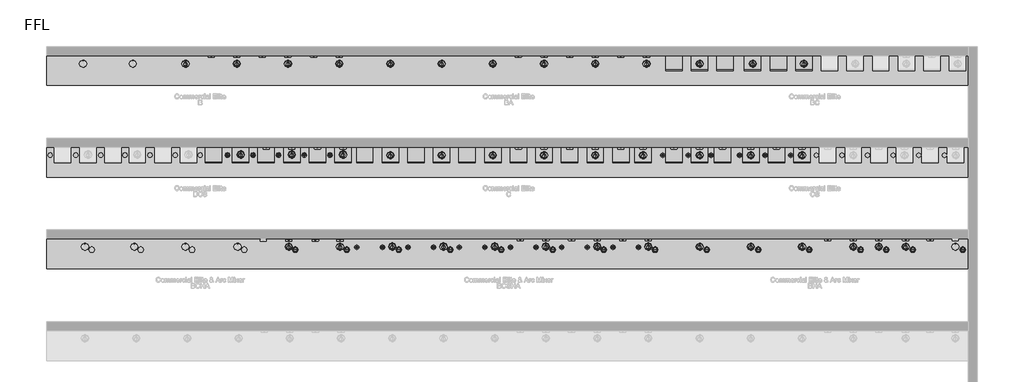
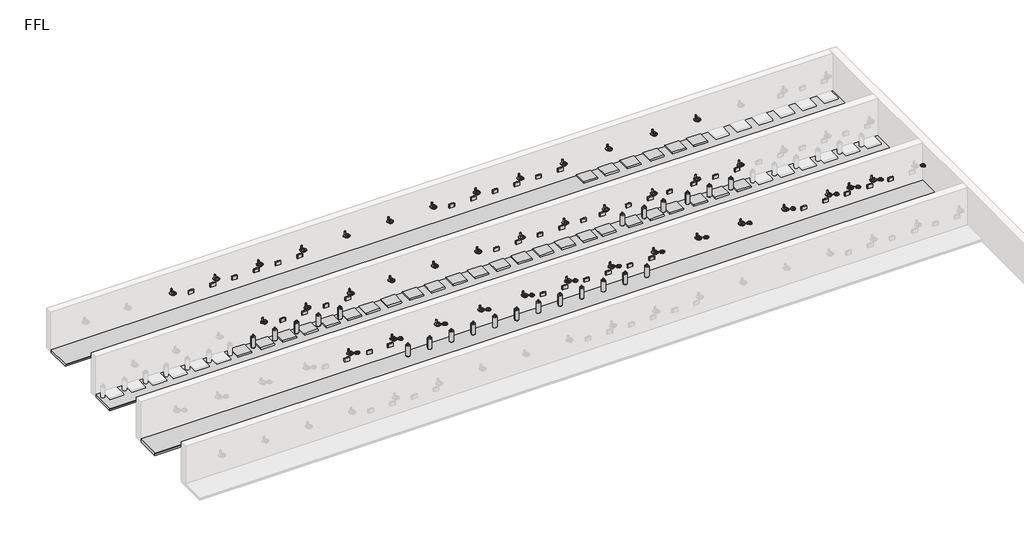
# One storey, part 2 of 13: 149 flow terminals, 3 furniture elements.
"""IFC4 building model written with IfcOpenShell, lengths in millimetres."""

from ifc_helpers import new_model, si_unit, origin, place, context, project, spatial, transform, mapped, element, save
from components import flow_terminal_1fd3c137, bcs_and_bc_6de74493, bright_chrome_07e2d693, brushed_chrome_743c02cf, co2_gas_cylinder_20234e14, generic_plinth_900mm_f1ea148c

model = new_model("IFC4")

# Units and contexts
model_context = context("Model", 3, world=origin())
ifc_project = project(units=[si_unit("LENGTHUNIT", "METRE", prefix="MILLI")], contexts=[model_context])

# Site, building, storey
site = spatial("IfcSite", under=ifc_project)
building = spatial("IfcBuilding", under=site)
storey = spatial("IfcBuildingStorey", under=building, Name="FFL", Elevation=0.0)

# Flow terminals
placement = place(None, origin())
flow_terminal_shape = flow_terminal_1fd3c137(model_context)
element("IfcFlowTerminal", 1, ObjectType="z_PlumFixt_Zenith_Booster : Booster", at=placement, inside=storey, context=model_context, shape_type="MappedRepresentation", body=[
    mapped(flow_terminal_shape, transform((-2017.3186262, 7900.2393304, 498.0), x_axis=(1.0, 0.0, 0.0), y_axis=(0.0, 1.0, 0.0), z_axis=(0.0, 0.0, 1.0))),
])
element("IfcFlowTerminal", 2, ObjectType="z_PlumFixt_Zenith_Booster : Booster", at=placement, inside=storey, context=model_context, shape_type="MappedRepresentation", body=[
    mapped(flow_terminal_shape, transform((-1246.4852929, 7900.2393304, 498.0), x_axis=(1.0, 0.0, 0.0), y_axis=(0.0, 1.0, 0.0), z_axis=(0.0, 0.0, 1.0))),
])
element("IfcFlowTerminal", 3, ObjectType="z_PlumFixt_Zenith_Booster : Booster", at=placement, inside=storey, context=model_context, shape_type="MappedRepresentation", body=[
    mapped(flow_terminal_shape, transform((-475.6519595, 7900.2393304, 498.0), x_axis=(1.0, 0.0, 0.0), y_axis=(0.0, 1.0, 0.0), z_axis=(0.0, 0.0, 1.0))),
])
element("IfcFlowTerminal", 4, ObjectType="z_PlumFixt_Zenith_Booster : Booster", at=placement, inside=storey, context=model_context, shape_type="MappedRepresentation", body=[
    mapped(flow_terminal_shape, transform((295.1813738, 7900.2393304, 498.0), x_axis=(1.0, 0.0, 0.0), y_axis=(0.0, 1.0, 0.0), z_axis=(0.0, 0.0, 1.0))),
])
element("IfcFlowTerminal", 5, ObjectType="z_PlumFixt_Zenith_Booster : Booster", at=placement, inside=storey, context=model_context, shape_type="MappedRepresentation", body=[
    mapped(flow_terminal_shape, transform((1066.0147071, 7900.2393304, 498.0), x_axis=(1.0, 0.0, 0.0), y_axis=(0.0, 1.0, 0.0), z_axis=(0.0, 0.0, 1.0))),
])
element("IfcFlowTerminal", 6, ObjectType="z_PlumFixt_Zenith_Booster : Booster", at=placement, inside=storey, context=model_context, shape_type="MappedRepresentation", body=[
    mapped(flow_terminal_shape, transform((1836.8480405, 7900.2393304, 498.0), x_axis=(1.0, 0.0, 0.0), y_axis=(0.0, 1.0, 0.0), z_axis=(0.0, 0.0, 1.0))),
])
element("IfcFlowTerminal", 7, ObjectType="z_PlumFixt_Zenith_Booster : Booster", at=placement, inside=storey, context=model_context, shape_type="MappedRepresentation", body=[
    mapped(flow_terminal_shape, transform((1123.0147071, 2365.3893304, 498.0), x_axis=(1.0, 0.0, 0.0), y_axis=(0.0, 1.0, 0.0), z_axis=(0.0, 0.0, 1.0))),
])
element("IfcFlowTerminal", 8, ObjectType="z_PlumFixt_Zenith_Booster : Booster", at=placement, inside=storey, context=model_context, shape_type="MappedRepresentation", body=[
    mapped(flow_terminal_shape, transform((11143.8480405, 2381.1893304, 498.0), x_axis=(1.0, 0.0, 0.0), y_axis=(0.0, 1.0, 0.0), z_axis=(0.0, 0.0, 1.0))),
])
element("IfcFlowTerminal", 9, ObjectType="z_PlumFixt_Zenith_Booster : Booster", at=placement, inside=storey, context=model_context, shape_type="MappedRepresentation", body=[
    mapped(flow_terminal_shape, transform((10373.0147071, 2381.1893304, 498.0), x_axis=(1.0, 0.0, 0.0), y_axis=(0.0, 1.0, 0.0), z_axis=(0.0, 0.0, 1.0))),
])
element("IfcFlowTerminal", 10, ObjectType="z_PlumFixt_Zenith_Booster : Booster", at=placement, inside=storey, context=model_context, shape_type="MappedRepresentation", body=[
    mapped(flow_terminal_shape, transform((7289.6813738, 2381.1893304, 498.0), x_axis=(1.0, 0.0, 0.0), y_axis=(0.0, 1.0, 0.0), z_axis=(0.0, 0.0, 1.0))),
])
element("IfcFlowTerminal", 11, ObjectType="z_PlumFixt_Zenith_Booster : Booster", at=placement, inside=storey, context=model_context, shape_type="MappedRepresentation", body=[
    mapped(flow_terminal_shape, transform((16539.6813738, 2381.1893304, 498.0), x_axis=(1.0, 0.0, 0.0), y_axis=(0.0, 1.0, 0.0), z_axis=(0.0, 0.0, 1.0))),
])
element("IfcFlowTerminal", 12, ObjectType="z_PlumFixt_Zenith_Booster : Booster", at=placement, inside=storey, context=model_context, shape_type="MappedRepresentation", body=[
    mapped(flow_terminal_shape, transform((19623.0147071, 2381.1893304, 498.0), x_axis=(1.0, 0.0, 0.0), y_axis=(0.0, 1.0, 0.0), z_axis=(0.0, 0.0, 1.0))),
])
element("IfcFlowTerminal", 13, ObjectType="z_PlumFixt_Zenith_Booster : Booster", at=placement, inside=storey, context=model_context, shape_type="MappedRepresentation", body=[
    mapped(flow_terminal_shape, transform((15768.8480405, 5140.2393304, 538.0), x_axis=(1.0, 0.0, 0.0), y_axis=(0.0, 1.0, 0.0), z_axis=(0.0, 0.0, 1.0))),
])
element("IfcFlowTerminal", 14, ObjectType="z_PlumFixt_Zenith_Booster : Booster", at=placement, inside=storey, context=model_context, shape_type="MappedRepresentation", body=[
    mapped(flow_terminal_shape, transform((14998.0147071, 5140.2393304, 538.0), x_axis=(1.0, 0.0, 0.0), y_axis=(0.0, 1.0, 0.0), z_axis=(0.0, 0.0, 1.0))),
])
element("IfcFlowTerminal", 15, ObjectType="z_PlumFixt_Zenith_Booster : Booster", at=placement, inside=storey, context=model_context, shape_type="MappedRepresentation", body=[
    mapped(flow_terminal_shape, transform((14227.1813738, 5140.2393304, 538.0), x_axis=(1.0, 0.0, 0.0), y_axis=(0.0, 1.0, 0.0), z_axis=(0.0, 0.0, 1.0))),
])
element("IfcFlowTerminal", 16, ObjectType="z_PlumFixt_Zenith_Booster : Booster", at=placement, inside=storey, context=model_context, shape_type="MappedRepresentation", body=[
    mapped(flow_terminal_shape, transform((13373.2647071, 5140.2393304, 538.0), x_axis=(1.0, 0.0, 0.0), y_axis=(0.0, 1.0, 0.0), z_axis=(0.0, 0.0, 1.0))),
])
element("IfcFlowTerminal", 17, ObjectType="z_PlumFixt_Zenith_Booster : Booster", at=placement, inside=storey, context=model_context, shape_type="MappedRepresentation", body=[
    mapped(flow_terminal_shape, transform((12685.5147071, 5140.2393304, 538.0), x_axis=(1.0, 0.0, 0.0), y_axis=(0.0, 1.0, 0.0), z_axis=(0.0, 0.0, 1.0))),
])
element("IfcFlowTerminal", 18, ObjectType="z_PlumFixt_Zenith_Booster : Booster", at=placement, inside=storey, context=model_context, shape_type="MappedRepresentation", body=[
    mapped(flow_terminal_shape, transform((11914.6813738, 5140.2393304, 538.0), x_axis=(1.0, 0.0, 0.0), y_axis=(0.0, 1.0, 0.0), z_axis=(0.0, 0.0, 1.0))),
])
element("IfcFlowTerminal", 19, ObjectType="z_PlumFixt_Zenith_Booster : Booster", at=placement, inside=storey, context=model_context, shape_type="MappedRepresentation", body=[
    mapped(flow_terminal_shape, transform((10983.2647071, 5140.2393304, 538.0), x_axis=(1.0, 0.0, 0.0), y_axis=(0.0, 1.0, 0.0), z_axis=(0.0, 0.0, 1.0))),
])
element("IfcFlowTerminal", 20, ObjectType="z_PlumFixt_Zenith_Booster : Booster", at=placement, inside=storey, context=model_context, shape_type="MappedRepresentation", body=[
    mapped(flow_terminal_shape, transform((10316.0147071, 5140.2393304, 538.0), x_axis=(1.0, 0.0, 0.0), y_axis=(0.0, 1.0, 0.0), z_axis=(0.0, 0.0, 1.0))),
])
element("IfcFlowTerminal", 21, ObjectType="z_PlumFixt_Zenith_Booster : Booster", at=placement, inside=storey, context=model_context, shape_type="MappedRepresentation", body=[
    mapped(flow_terminal_shape, transform((9545.1813738, 5140.2393304, 538.0), x_axis=(1.0, 0.0, 0.0), y_axis=(0.0, 1.0, 0.0), z_axis=(0.0, 0.0, 1.0))),
])
element("IfcFlowTerminal", 22, ObjectType="z_PlumFixt_Zenith_Booster : Booster", at=placement, inside=storey, context=model_context, shape_type="MappedRepresentation", body=[
    mapped(flow_terminal_shape, transform((8774.3480405, 5140.2393304, 538.0), x_axis=(1.0, 0.0, 0.0), y_axis=(0.0, 1.0, 0.0), z_axis=(0.0, 0.0, 1.0))),
])
element("IfcFlowTerminal", 23, ObjectType="z_PlumFixt_Zenith_Booster : Booster", at=placement, inside=storey, context=model_context, shape_type="MappedRepresentation", body=[
    mapped(flow_terminal_shape, transform((8003.5147071, 5140.2393304, 538.0), x_axis=(1.0, 0.0, 0.0), y_axis=(0.0, 1.0, 0.0), z_axis=(0.0, 0.0, 1.0))),
])
element("IfcFlowTerminal", 24, ObjectType="z_PlumFixt_Zenith_Booster : Booster", at=placement, inside=storey, context=model_context, shape_type="MappedRepresentation", body=[
    mapped(flow_terminal_shape, transform((7232.6813738, 5140.2393304, 538.0), x_axis=(1.0, 0.0, 0.0), y_axis=(0.0, 1.0, 0.0), z_axis=(0.0, 0.0, 1.0))),
])
element("IfcFlowTerminal", 25, ObjectType="z_PlumFixt_Zenith_Booster : Booster", at=placement, inside=storey, context=model_context, shape_type="MappedRepresentation", body=[
    mapped(flow_terminal_shape, transform((-358.6519595, 5140.2393304, 538.0), x_axis=(1.0, 0.0, 0.0), y_axis=(0.0, 1.0, 0.0), z_axis=(0.0, 0.0, 1.0))),
])
element("IfcFlowTerminal", 26, ObjectType="z_PlumFixt_Zenith_Booster : Booster", at=placement, inside=storey, context=model_context, shape_type="MappedRepresentation", body=[
    mapped(flow_terminal_shape, transform((412.1813738, 5140.2393304, 538.0), x_axis=(1.0, 0.0, 0.0), y_axis=(0.0, 1.0, 0.0), z_axis=(0.0, 0.0, 1.0))),
])
element("IfcFlowTerminal", 27, ObjectType="z_PlumFixt_Zenith_Booster : Booster", at=placement, inside=storey, context=model_context, shape_type="MappedRepresentation", body=[
    mapped(flow_terminal_shape, transform((1183.0147071, 5140.2393304, 538.0), x_axis=(1.0, 0.0, 0.0), y_axis=(0.0, 1.0, 0.0), z_axis=(0.0, 0.0, 1.0))),
])
element("IfcFlowTerminal", 28, ObjectType="z_PlumFixt_Zenith_Booster : Booster", at=placement, inside=storey, context=model_context, shape_type="MappedRepresentation", body=[
    mapped(flow_terminal_shape, transform((1953.8480405, 5140.2393304, 538.0), x_axis=(1.0, 0.0, 0.0), y_axis=(0.0, 1.0, 0.0), z_axis=(0.0, 0.0, 1.0))),
])
element("IfcFlowTerminal", 29, ObjectType="z_PlumFixt_Zenith_Booster : Booster", at=placement, inside=storey, context=model_context, shape_type="MappedRepresentation", body=[
    mapped(flow_terminal_shape, transform((7232.6813738, 7900.2393304, 498.0), x_axis=(1.0, 0.0, 0.0), y_axis=(0.0, 1.0, 0.0), z_axis=(0.0, 0.0, 1.0))),
])
element("IfcFlowTerminal", 30, ObjectType="z_PlumFixt_Zenith_Booster : Booster", at=placement, inside=storey, context=model_context, shape_type="MappedRepresentation", body=[
    mapped(flow_terminal_shape, transform((8003.5147071, 7900.2393304, 498.0), x_axis=(1.0, 0.0, 0.0), y_axis=(0.0, 1.0, 0.0), z_axis=(0.0, 0.0, 1.0))),
])
element("IfcFlowTerminal", 31, ObjectType="z_PlumFixt_Zenith_Booster : Booster", at=placement, inside=storey, context=model_context, shape_type="MappedRepresentation", body=[
    mapped(flow_terminal_shape, transform((8774.3480405, 7900.2393304, 498.0), x_axis=(1.0, 0.0, 0.0), y_axis=(0.0, 1.0, 0.0), z_axis=(0.0, 0.0, 1.0))),
])
element("IfcFlowTerminal", 32, ObjectType="z_PlumFixt_Zenith_Booster : Booster", at=placement, inside=storey, context=model_context, shape_type="MappedRepresentation", body=[
    mapped(flow_terminal_shape, transform((9545.1813738, 7900.2393304, 498.0), x_axis=(1.0, 0.0, 0.0), y_axis=(0.0, 1.0, 0.0), z_axis=(0.0, 0.0, 1.0))),
])
element("IfcFlowTerminal", 33, ObjectType="z_PlumFixt_Zenith_Booster : Booster", at=placement, inside=storey, context=model_context, shape_type="MappedRepresentation", body=[
    mapped(flow_terminal_shape, transform((10316.0147071, 7900.2393304, 498.0), x_axis=(1.0, 0.0, 0.0), y_axis=(0.0, 1.0, 0.0), z_axis=(0.0, 0.0, 1.0))),
])
element("IfcFlowTerminal", 34, ObjectType="z_PlumFixt_Zenith_Booster : Booster", at=placement, inside=storey, context=model_context, shape_type="MappedRepresentation", body=[
    mapped(flow_terminal_shape, transform((11086.8480405, 7900.2393304, 498.0), x_axis=(1.0, 0.0, 0.0), y_axis=(0.0, 1.0, 0.0), z_axis=(0.0, 0.0, 1.0))),
])
element("IfcFlowTerminal", 35, ObjectType="z_PlumFixt_Zenith_Booster : Booster", at=placement, inside=storey, context=model_context, shape_type="MappedRepresentation", body=[
    mapped(flow_terminal_shape, transform((18885.5147071, 2381.1893304, 498.0), x_axis=(1.0, 0.0, 0.0), y_axis=(0.0, 1.0, 0.0), z_axis=(0.0, 0.0, 1.0))),
])
element("IfcFlowTerminal", 36, ObjectType="z_PlumFixt_Zenith_Booster : Booster", at=placement, inside=storey, context=model_context, shape_type="MappedRepresentation", body=[
    mapped(flow_terminal_shape, transform((18081.3480405, 2381.1893304, 498.0), x_axis=(1.0, 0.0, 0.0), y_axis=(0.0, 1.0, 0.0), z_axis=(0.0, 0.0, 1.0))),
])
element("IfcFlowTerminal", 37, ObjectType="z_PlumFixt_Zenith_Booster : Booster", at=placement, inside=storey, context=model_context, shape_type="MappedRepresentation", body=[
    mapped(flow_terminal_shape, transform((17310.5147071, 2381.1893304, 498.0), x_axis=(1.0, 0.0, 0.0), y_axis=(0.0, 1.0, 0.0), z_axis=(0.0, 0.0, 1.0))),
])
element("IfcFlowTerminal", 38, ObjectType="z_PlumFixt_Zenith_Booster : Booster", at=placement, inside=storey, context=model_context, shape_type="MappedRepresentation", body=[
    mapped(flow_terminal_shape, transform((1861.8480405, 2365.3893304, 498.0), x_axis=(1.0, 0.0, 0.0), y_axis=(0.0, 1.0, 0.0), z_axis=(0.0, 0.0, 1.0))),
])
element("IfcFlowTerminal", 39, ObjectType="z_PlumFixt_Zenith_Booster : Booster", at=placement, inside=storey, context=model_context, shape_type="MappedRepresentation", body=[
    mapped(flow_terminal_shape, transform((320.1813738, 2365.3893304, 498.0), x_axis=(1.0, 0.0, 0.0), y_axis=(0.0, 1.0, 0.0), z_axis=(0.0, 0.0, 1.0))),
])
element("IfcFlowTerminal", 40, ObjectType="z_PlumFixt_Zenith_Booster : Booster", at=placement, inside=storey, context=model_context, shape_type="MappedRepresentation", body=[
    mapped(flow_terminal_shape, transform((8060.5147071, 2381.1893304, 498.0), x_axis=(1.0, 0.0, 0.0), y_axis=(0.0, 1.0, 0.0), z_axis=(0.0, 0.0, 1.0))),
])
element("IfcFlowTerminal", 41, ObjectType="z_PlumFixt_Zenith_Booster : Booster", at=placement, inside=storey, context=model_context, shape_type="MappedRepresentation", body=[
    mapped(flow_terminal_shape, transform((8831.3480405, 2381.1893304, 498.0), x_axis=(1.0, 0.0, 0.0), y_axis=(0.0, 1.0, 0.0), z_axis=(0.0, 0.0, 1.0))),
])
element("IfcFlowTerminal", 42, ObjectType="z_PlumFixt_Zenith_Booster : Booster", at=placement, inside=storey, context=model_context, shape_type="MappedRepresentation", body=[
    mapped(flow_terminal_shape, transform((9602.1813738, 2381.1893304, 498.0), x_axis=(1.0, 0.0, 0.0), y_axis=(0.0, 1.0, 0.0), z_axis=(0.0, 0.0, 1.0))),
])
bcs_and_bc_shape = bcs_and_bc_6de74493(model_context)
element("IfcFlowTerminal", 43, ObjectType="z_PlumFixt_Zenith_Vent Tray : BCS and BC", at=placement, inside=storey, context=model_context, shape_type="MappedRepresentation", body=[
    mapped(bcs_and_bc_shape, transform((11914.6813738, 7720.7393304, 100.0), x_axis=(1.0, 0.0, 0.0), y_axis=(0.0, 1.0, 0.0), z_axis=(0.0, 0.0, 1.0))),
])
element("IfcFlowTerminal", 44, ObjectType="z_PlumFixt_Zenith_Vent Tray : BCS and BC", at=placement, inside=storey, context=model_context, shape_type="MappedRepresentation", body=[
    mapped(bcs_and_bc_shape, transform((12685.5147071, 7720.7393304, 100.0), x_axis=(1.0, 0.0, 0.0), y_axis=(0.0, 1.0, 0.0), z_axis=(0.0, 0.0, 1.0))),
])
element("IfcFlowTerminal", 45, ObjectType="z_PlumFixt_Zenith_Vent Tray : BCS and BC", at=placement, inside=storey, context=model_context, shape_type="MappedRepresentation", body=[
    mapped(bcs_and_bc_shape, transform((13456.3480405, 7720.7393304, 100.0), x_axis=(1.0, 0.0, 0.0), y_axis=(0.0, 1.0, 0.0), z_axis=(0.0, 0.0, 1.0))),
])
element("IfcFlowTerminal", 46, ObjectType="z_PlumFixt_Zenith_Vent Tray : BCS and BC", at=placement, inside=storey, context=model_context, shape_type="MappedRepresentation", body=[
    mapped(bcs_and_bc_shape, transform((14284.1813738, 7720.7393304, 100.0), x_axis=(1.0, 0.0, 0.0), y_axis=(0.0, 1.0, 0.0), z_axis=(0.0, 0.0, 1.0))),
])
element("IfcFlowTerminal", 47, ObjectType="z_PlumFixt_Zenith_Vent Tray : BCS and BC", at=placement, inside=storey, context=model_context, shape_type="MappedRepresentation", body=[
    mapped(bcs_and_bc_shape, transform((15055.0147071, 7720.7393304, 100.0), x_axis=(1.0, 0.0, 0.0), y_axis=(0.0, 1.0, 0.0), z_axis=(0.0, 0.0, 1.0))),
])
element("IfcFlowTerminal", 48, ObjectType="z_PlumFixt_Zenith_Vent Tray : BCS and BC", at=placement, inside=storey, context=model_context, shape_type="MappedRepresentation", body=[
    mapped(bcs_and_bc_shape, transform((15825.8480405, 7720.7393304, 100.0), x_axis=(1.0, 0.0, 0.0), y_axis=(0.0, 1.0, 0.0), z_axis=(0.0, 0.0, 1.0))),
])
bright_chrome_shape = bright_chrome_07e2d693(model_context)
element("IfcFlowTerminal", 49, ObjectType="z_PlumFixt_Zenith_Font and Tap Riser : Bright Chrome", at=placement, inside=storey, context=model_context, shape_type="MappedRepresentation", body=[
    mapped(bright_chrome_shape, transform((15768.8480405, 4828.9893304, 900.0), x_axis=(1.0, 0.0, 0.0), y_axis=(0.0, 1.0, 0.0), z_axis=(0.0, 0.0, 1.0))),
])
element("IfcFlowTerminal", 50, ObjectType="z_PlumFixt_Zenith_Font and Tap Riser : Bright Chrome", at=placement, inside=storey, context=model_context, shape_type="MappedRepresentation", body=[
    mapped(bright_chrome_shape, transform((14227.1813738, 4828.9893304, 900.0), x_axis=(1.0, 0.0, 0.0), y_axis=(0.0, 1.0, 0.0), z_axis=(0.0, 0.0, 1.0))),
])
element("IfcFlowTerminal", 51, ObjectType="z_PlumFixt_Zenith_Font and Tap Riser : Bright Chrome", at=placement, inside=storey, context=model_context, shape_type="MappedRepresentation", body=[
    mapped(bright_chrome_shape, transform((18081.3480405, 2078.9393304, 900.0), x_axis=(1.0, 0.0, 0.0), y_axis=(0.0, 1.0, 0.0), z_axis=(0.0, 0.0, 1.0))),
])
element("IfcFlowTerminal", 52, ObjectType="z_PlumFixt_Zenith_Font and Tap Riser : Bright Chrome", at=placement, inside=storey, context=model_context, shape_type="MappedRepresentation", body=[
    mapped(bright_chrome_shape, transform((12685.5147071, 4828.9893304, 900.0), x_axis=(1.0, 0.0, 0.0), y_axis=(0.0, 1.0, 0.0), z_axis=(0.0, 0.0, 1.0))),
])
element("IfcFlowTerminal", 53, ObjectType="z_PlumFixt_Zenith_Font and Tap Riser : Bright Chrome", at=placement, inside=storey, context=model_context, shape_type="MappedRepresentation", body=[
    mapped(bright_chrome_shape, transform((1836.8480405, 7588.9893304, 900.0), x_axis=(1.0, 0.0, 0.0), y_axis=(0.0, 1.0, 0.0), z_axis=(0.0, 0.0, 1.0))),
])
element("IfcFlowTerminal", 54, ObjectType="z_PlumFixt_Zenith_Font and Tap Riser : Bright Chrome", at=placement, inside=storey, context=model_context, shape_type="MappedRepresentation", body=[
    mapped(bright_chrome_shape, transform((10983.2647071, 4828.9893304, 900.0), x_axis=(1.0, 0.0, 0.0), y_axis=(0.0, 1.0, 0.0), z_axis=(0.0, 0.0, 1.0))),
])
element("IfcFlowTerminal", 55, ObjectType="z_PlumFixt_Zenith_Font and Tap Riser : Bright Chrome", at=placement, inside=storey, context=model_context, shape_type="MappedRepresentation", body=[
    mapped(bright_chrome_shape, transform((1953.8480405, 4852.9893304, 900.0), x_axis=(1.0, 0.0, 0.0), y_axis=(0.0, 1.0, 0.0), z_axis=(0.0, 0.0, 1.0))),
])
element("IfcFlowTerminal", 56, ObjectType="z_PlumFixt_Zenith_Font and Tap Riser : Bright Chrome", at=placement, inside=storey, context=model_context, shape_type="MappedRepresentation", body=[
    mapped(bright_chrome_shape, transform((11086.8480405, 7588.9893304, 900.0), x_axis=(1.0, 0.0, 0.0), y_axis=(0.0, 1.0, 0.0), z_axis=(0.0, 0.0, 1.0))),
])
element("IfcFlowTerminal", 57, ObjectType="z_PlumFixt_Zenith_Font and Tap Riser : Bright Chrome", at=placement, inside=storey, context=model_context, shape_type="MappedRepresentation", body=[
    mapped(bright_chrome_shape, transform((11143.8480405, 2082.9393304, 900.0), x_axis=(1.0, 0.0, 0.0), y_axis=(0.0, 1.0, 0.0), z_axis=(0.0, 0.0, 1.0))),
])
element("IfcFlowTerminal", 58, ObjectType="z_PlumFixt_Zenith_Font and Tap Riser : Bright Chrome", at=placement, inside=storey, context=model_context, shape_type="MappedRepresentation", body=[
    mapped(bright_chrome_shape, transform((1861.8480405, 2078.9393304, 900.0), x_axis=(1.0, 0.0, 0.0), y_axis=(0.0, 1.0, 0.0), z_axis=(0.0, 0.0, 1.0))),
])
element("IfcFlowTerminal", 59, ObjectType="z_PlumFixt_Zenith_Font and Tap Riser : Bright Chrome", at=placement, inside=storey, context=model_context, shape_type="MappedRepresentation", body=[
    mapped(bright_chrome_shape, transform((295.1813738, 7588.9893304, 900.0), x_axis=(1.0, 0.0, 0.0), y_axis=(0.0, 1.0, 0.0), z_axis=(0.0, 0.0, 1.0))),
])
element("IfcFlowTerminal", 60, ObjectType="z_PlumFixt_Zenith_Font and Tap Riser : Bright Chrome", at=placement, inside=storey, context=model_context, shape_type="MappedRepresentation", body=[
    mapped(bright_chrome_shape, transform((9545.1813738, 4828.9893304, 900.0), x_axis=(1.0, 0.0, 0.0), y_axis=(0.0, 1.0, 0.0), z_axis=(0.0, 0.0, 1.0))),
])
element("IfcFlowTerminal", 61, ObjectType="z_PlumFixt_Zenith_Font and Tap Riser : Bright Chrome", at=placement, inside=storey, context=model_context, shape_type="MappedRepresentation", body=[
    mapped(bright_chrome_shape, transform((412.1813738, 4852.9893304, 900.0), x_axis=(1.0, 0.0, 0.0), y_axis=(0.0, 1.0, 0.0), z_axis=(0.0, 0.0, 1.0))),
])
element("IfcFlowTerminal", 62, ObjectType="z_PlumFixt_Zenith_Font and Tap Riser : Bright Chrome", at=placement, inside=storey, context=model_context, shape_type="MappedRepresentation", body=[
    mapped(bright_chrome_shape, transform((9545.1813738, 7588.9893304, 900.0), x_axis=(1.0, 0.0, 0.0), y_axis=(0.0, 1.0, 0.0), z_axis=(0.0, 0.0, 1.0))),
])
element("IfcFlowTerminal", 63, ObjectType="z_PlumFixt_Zenith_Font and Tap Riser : Bright Chrome", at=placement, inside=storey, context=model_context, shape_type="MappedRepresentation", body=[
    mapped(bright_chrome_shape, transform((18885.5147071, 2078.9393304, 900.0), x_axis=(1.0, 0.0, 0.0), y_axis=(0.0, 1.0, 0.0), z_axis=(0.0, 0.0, 1.0))),
])
element("IfcFlowTerminal", 64, ObjectType="z_PlumFixt_Zenith_Font and Tap Riser : Bright Chrome", at=placement, inside=storey, context=model_context, shape_type="MappedRepresentation", body=[
    mapped(bright_chrome_shape, transform((9602.1813738, 2082.9393304, 900.0), x_axis=(1.0, 0.0, 0.0), y_axis=(0.0, 1.0, 0.0), z_axis=(0.0, 0.0, 1.0))),
])
element("IfcFlowTerminal", 65, ObjectType="z_PlumFixt_Zenith_Font and Tap Riser : Bright Chrome", at=placement, inside=storey, context=model_context, shape_type="MappedRepresentation", body=[
    mapped(bright_chrome_shape, transform((320.1813738, 2078.9393304, 900.0), x_axis=(1.0, 0.0, 0.0), y_axis=(0.0, 1.0, 0.0), z_axis=(0.0, 0.0, 1.0))),
])
element("IfcFlowTerminal", 66, ObjectType="z_PlumFixt_Zenith_Font and Tap Riser : Bright Chrome", at=placement, inside=storey, context=model_context, shape_type="MappedRepresentation", body=[
    mapped(bright_chrome_shape, transform((-1246.4852929, 7588.9893304, 900.0), x_axis=(1.0, 0.0, 0.0), y_axis=(0.0, 1.0, 0.0), z_axis=(0.0, 0.0, 1.0))),
])
element("IfcFlowTerminal", 67, ObjectType="z_PlumFixt_Zenith_Font and Tap Riser : Bright Chrome", at=placement, inside=storey, context=model_context, shape_type="MappedRepresentation", body=[
    mapped(bright_chrome_shape, transform((8003.5147071, 4828.9893304, 900.0), x_axis=(1.0, 0.0, 0.0), y_axis=(0.0, 1.0, 0.0), z_axis=(0.0, 0.0, 1.0))),
])
element("IfcFlowTerminal", 68, ObjectType="z_PlumFixt_Zenith_Font and Tap Riser : Bright Chrome", at=placement, inside=storey, context=model_context, shape_type="MappedRepresentation", body=[
    mapped(bright_chrome_shape, transform((-1129.4852929, 4852.9893304, 900.0), x_axis=(1.0, 0.0, 0.0), y_axis=(0.0, 1.0, 0.0), z_axis=(0.0, 0.0, 1.0))),
])
element("IfcFlowTerminal", 69, ObjectType="z_PlumFixt_Zenith_Font and Tap Riser : Bright Chrome", at=placement, inside=storey, context=model_context, shape_type="MappedRepresentation", body=[
    mapped(bright_chrome_shape, transform((8003.5147071, 7588.9893304, 900.0), x_axis=(1.0, 0.0, 0.0), y_axis=(0.0, 1.0, 0.0), z_axis=(0.0, 0.0, 1.0))),
])
element("IfcFlowTerminal", 70, ObjectType="z_PlumFixt_Zenith_Font and Tap Riser : Bright Chrome", at=placement, inside=storey, context=model_context, shape_type="MappedRepresentation", body=[
    mapped(bright_chrome_shape, transform((17310.5147071, 2078.9393304, 900.0), x_axis=(1.0, 0.0, 0.0), y_axis=(0.0, 1.0, 0.0), z_axis=(0.0, 0.0, 1.0))),
])
element("IfcFlowTerminal", 71, ObjectType="z_PlumFixt_Zenith_Font and Tap Riser : Bright Chrome", at=placement, inside=storey, context=model_context, shape_type="MappedRepresentation", body=[
    mapped(bright_chrome_shape, transform((8060.5147071, 2082.9393304, 900.0), x_axis=(1.0, 0.0, 0.0), y_axis=(0.0, 1.0, 0.0), z_axis=(0.0, 0.0, 1.0))),
])
element("IfcFlowTerminal", 72, ObjectType="z_PlumFixt_Zenith_Font and Tap Riser : Bright Chrome", at=placement, inside=storey, context=model_context, shape_type="MappedRepresentation", body=[
    mapped(bright_chrome_shape, transform((-2788.1519595, 7588.9893304, 900.0), x_axis=(1.0, 0.0, 0.0), y_axis=(0.0, 1.0, 0.0), z_axis=(0.0, 0.0, 1.0))),
])
element("IfcFlowTerminal", 73, ObjectType="z_PlumFixt_Zenith_Font and Tap Riser : Bright Chrome", at=placement, inside=storey, context=model_context, shape_type="MappedRepresentation", body=[
    mapped(bright_chrome_shape, transform((6461.8480405, 4828.9893304, 900.0), x_axis=(1.0, 0.0, 0.0), y_axis=(0.0, 1.0, 0.0), z_axis=(0.0, 0.0, 1.0))),
])
element("IfcFlowTerminal", 74, ObjectType="z_PlumFixt_Zenith_Font and Tap Riser : Bright Chrome", at=placement, inside=storey, context=model_context, shape_type="MappedRepresentation", body=[
    mapped(bright_chrome_shape, transform((6461.8480405, 7588.9893304, 900.0), x_axis=(1.0, 0.0, 0.0), y_axis=(0.0, 1.0, 0.0), z_axis=(0.0, 0.0, 1.0))),
])
element("IfcFlowTerminal", 75, ObjectType="z_PlumFixt_Zenith_Font and Tap Riser : Bright Chrome", at=placement, inside=storey, context=model_context, shape_type="MappedRepresentation", body=[
    mapped(bright_chrome_shape, transform((15825.8480405, 7588.9893304, 900.0), x_axis=(1.0, 0.0, 0.0), y_axis=(0.0, 1.0, 0.0), z_axis=(0.0, 0.0, 1.0))),
])
element("IfcFlowTerminal", 76, ObjectType="z_PlumFixt_Zenith_Font and Tap Riser : Bright Chrome", at=placement, inside=storey, context=model_context, shape_type="MappedRepresentation", body=[
    mapped(bright_chrome_shape, transform((15768.8480405, 2078.9393304, 900.0), x_axis=(1.0, 0.0, 0.0), y_axis=(0.0, 1.0, 0.0), z_axis=(0.0, 0.0, 1.0))),
])
element("IfcFlowTerminal", 77, ObjectType="z_PlumFixt_Zenith_Font and Tap Riser : Bright Chrome", at=placement, inside=storey, context=model_context, shape_type="MappedRepresentation", body=[
    mapped(bright_chrome_shape, transform((6518.8480405, 2082.9393304, 900.0), x_axis=(1.0, 0.0, 0.0), y_axis=(0.0, 1.0, 0.0), z_axis=(0.0, 0.0, 1.0))),
])
element("IfcFlowTerminal", 78, ObjectType="z_PlumFixt_Zenith_Font and Tap Riser : Bright Chrome", at=placement, inside=storey, context=model_context, shape_type="MappedRepresentation", body=[
    mapped(bright_chrome_shape, transform((4920.1813738, 4828.9893304, 900.0), x_axis=(1.0, 0.0, 0.0), y_axis=(0.0, 1.0, 0.0), z_axis=(0.0, 0.0, 1.0))),
])
element("IfcFlowTerminal", 79, ObjectType="z_PlumFixt_Zenith_Font and Tap Riser : Bright Chrome", at=placement, inside=storey, context=model_context, shape_type="MappedRepresentation", body=[
    mapped(bright_chrome_shape, transform((4920.1813738, 7588.9893304, 900.0), x_axis=(1.0, 0.0, 0.0), y_axis=(0.0, 1.0, 0.0), z_axis=(0.0, 0.0, 1.0))),
])
element("IfcFlowTerminal", 80, ObjectType="z_PlumFixt_Zenith_Font and Tap Riser : Bright Chrome", at=placement, inside=storey, context=model_context, shape_type="MappedRepresentation", body=[
    mapped(bright_chrome_shape, transform((14284.1813738, 7588.9893304, 900.0), x_axis=(1.0, 0.0, 0.0), y_axis=(0.0, 1.0, 0.0), z_axis=(0.0, 0.0, 1.0))),
])
element("IfcFlowTerminal", 81, ObjectType="z_PlumFixt_Zenith_Font and Tap Riser : Bright Chrome", at=placement, inside=storey, context=model_context, shape_type="MappedRepresentation", body=[
    mapped(bright_chrome_shape, transform((14227.1813738, 2078.9393304, 900.0), x_axis=(1.0, 0.0, 0.0), y_axis=(0.0, 1.0, 0.0), z_axis=(0.0, 0.0, 1.0))),
])
element("IfcFlowTerminal", 82, ObjectType="z_PlumFixt_Zenith_Font and Tap Riser : Bright Chrome", at=placement, inside=storey, context=model_context, shape_type="MappedRepresentation", body=[
    mapped(bright_chrome_shape, transform((4977.1813738, 2082.9393304, 900.0), x_axis=(1.0, 0.0, 0.0), y_axis=(0.0, 1.0, 0.0), z_axis=(0.0, 0.0, 1.0))),
])
element("IfcFlowTerminal", 83, ObjectType="z_PlumFixt_Zenith_Font and Tap Riser : Bright Chrome", at=placement, inside=storey, context=model_context, shape_type="MappedRepresentation", body=[
    mapped(bright_chrome_shape, transform((12685.5147071, 2078.9393304, 900.0), x_axis=(1.0, 0.0, 0.0), y_axis=(0.0, 1.0, 0.0), z_axis=(0.0, 0.0, 1.0))),
])
element("IfcFlowTerminal", 84, ObjectType="z_PlumFixt_Zenith_Font and Tap Riser : Bright Chrome", at=placement, inside=storey, context=model_context, shape_type="MappedRepresentation", body=[
    mapped(bright_chrome_shape, transform((3378.5147071, 4828.9893304, 900.0), x_axis=(1.0, 0.0, 0.0), y_axis=(0.0, 1.0, 0.0), z_axis=(0.0, 0.0, 1.0))),
])
element("IfcFlowTerminal", 85, ObjectType="z_PlumFixt_Zenith_Font and Tap Riser : Bright Chrome", at=placement, inside=storey, context=model_context, shape_type="MappedRepresentation", body=[
    mapped(bright_chrome_shape, transform((3378.5147071, 7588.9893304, 900.0), x_axis=(1.0, 0.0, 0.0), y_axis=(0.0, 1.0, 0.0), z_axis=(0.0, 0.0, 1.0))),
])
element("IfcFlowTerminal", 86, ObjectType="z_PlumFixt_Zenith_Font and Tap Riser : Bright Chrome", at=placement, inside=storey, context=model_context, shape_type="MappedRepresentation", body=[
    mapped(bright_chrome_shape, transform((12685.5147071, 7588.9893304, 900.0), x_axis=(1.0, 0.0, 0.0), y_axis=(0.0, 1.0, 0.0), z_axis=(0.0, 0.0, 1.0))),
])
element("IfcFlowTerminal", 87, ObjectType="z_PlumFixt_Zenith_Font and Tap Riser : Bright Chrome", at=placement, inside=storey, context=model_context, shape_type="MappedRepresentation", body=[
    mapped(bright_chrome_shape, transform((3435.5147071, 2082.9393304, 900.0), x_axis=(1.0, 0.0, 0.0), y_axis=(0.0, 1.0, 0.0), z_axis=(0.0, 0.0, 1.0))),
])
brushed_chrome_shape = brushed_chrome_743c02cf(model_context)
element("IfcFlowTerminal", 88, ObjectType="z_PlumFixt_Zenith_Font : Brushed Chrome", at=placement, inside=storey, context=model_context, shape_type="MappedRepresentation", body=[
    mapped(brushed_chrome_shape, transform((12905.479339, 1992.1893304, 900.0), x_axis=(1.0, 0.0, 0.0), y_axis=(0.0, 1.0, 0.0), z_axis=(0.0, 0.0, 1.0))),
])
element("IfcFlowTerminal", 89, ObjectType="z_PlumFixt_Zenith_Font : Brushed Chrome", at=placement, inside=storey, context=model_context, shape_type="MappedRepresentation", body=[
    mapped(brushed_chrome_shape, transform((3635.7998967, 1992.1893304, 900.0), x_axis=(1.0, 0.0, 0.0), y_axis=(0.0, 1.0, 0.0), z_axis=(0.0, 0.0, 1.0))),
])
element("IfcFlowTerminal", 90, ObjectType="z_PlumFixt_Zenith_Font : Brushed Nickel", at=placement, inside=storey, context=model_context, shape_type="MappedRepresentation", body=[
    mapped(brushed_chrome_shape, transform((14447.1460057, 1992.1893304, 900.0), x_axis=(1.0, 0.0, 0.0), y_axis=(0.0, 1.0, 0.0), z_axis=(0.0, 0.0, 1.0))),
])
element("IfcFlowTerminal", 91, ObjectType="z_PlumFixt_Zenith_Font : Brushed Nickel", at=placement, inside=storey, context=model_context, shape_type="MappedRepresentation", body=[
    mapped(brushed_chrome_shape, transform((5177.4665634, 1992.1893304, 900.0), x_axis=(1.0, 0.0, 0.0), y_axis=(0.0, 1.0, 0.0), z_axis=(0.0, 0.0, 1.0))),
])
co2_gas_cylinder_shape = co2_gas_cylinder_20234e14(model_context)
element("IfcFlowTerminal", 92, ObjectType="z_PlumFixt_Zenith_CO2 Gas Cylinder : CO2 Gas Cylinder", at=placement, inside=storey, context=model_context, shape_type="MappedRepresentation", body=[
    mapped(co2_gas_cylinder_shape, transform((2369.6813738, 1990.1893304, 100.0), x_axis=(-1.0, 0.0, 0.0), y_axis=(0.0, -1.0, 0.0), z_axis=(0.0, 0.0, 1.0))),
])
element("IfcFlowTerminal", 93, ObjectType="z_PlumFixt_Zenith_CO2 Gas Cylinder : CO2 Gas Cylinder", at=placement, inside=storey, context=model_context, shape_type="MappedRepresentation", body=[
    mapped(co2_gas_cylinder_shape, transform((3140.5147071, 1990.1893304, 100.0), x_axis=(-1.0, 0.0, 0.0), y_axis=(0.0, -1.0, 0.0), z_axis=(0.0, 0.0, 1.0))),
])
element("IfcFlowTerminal", 94, ObjectType="z_PlumFixt_Zenith_CO2 Gas Cylinder : CO2 Gas Cylinder", at=placement, inside=storey, context=model_context, shape_type="MappedRepresentation", body=[
    mapped(co2_gas_cylinder_shape, transform((6994.6813738, 1990.1893304, 100.0), x_axis=(-1.0, 0.0, 0.0), y_axis=(0.0, -1.0, 0.0), z_axis=(0.0, 0.0, 1.0))),
])
element("IfcFlowTerminal", 95, ObjectType="z_PlumFixt_Zenith_CO2 Gas Cylinder : CO2 Gas Cylinder", at=placement, inside=storey, context=model_context, shape_type="MappedRepresentation", body=[
    mapped(co2_gas_cylinder_shape, transform((10078.0147071, 1990.1893304, 100.0), x_axis=(-1.0, 0.0, 0.0), y_axis=(0.0, -1.0, 0.0), z_axis=(0.0, 0.0, 1.0))),
])
element("IfcFlowTerminal", 96, ObjectType="z_PlumFixt_Zenith_CO2 Gas Cylinder : CO2 Gas Cylinder", at=placement, inside=storey, context=model_context, shape_type="MappedRepresentation", body=[
    mapped(co2_gas_cylinder_shape, transform((10848.8480405, 1990.1893304, 100.0), x_axis=(-1.0, 0.0, 0.0), y_axis=(0.0, -1.0, 0.0), z_axis=(0.0, 0.0, 1.0))),
])
element("IfcFlowTerminal", 97, ObjectType="z_PlumFixt_Zenith_CO2 Gas Cylinder : CO2 Gas Cylinder", at=placement, inside=storey, context=model_context, shape_type="MappedRepresentation", body=[
    mapped(co2_gas_cylinder_shape, transform((15430.8480405, 4758.2393304, 100.0), x_axis=(-1.0, 0.0, 0.0), y_axis=(0.0, -1.0, 0.0), z_axis=(0.0, 0.0, 1.0))),
])
element("IfcFlowTerminal", 98, ObjectType="z_PlumFixt_Zenith_CO2 Gas Cylinder : CO2 Gas Cylinder", at=placement, inside=storey, context=model_context, shape_type="MappedRepresentation", body=[
    mapped(co2_gas_cylinder_shape, transform((14660.0147071, 4758.2393304, 100.0), x_axis=(-1.0, 0.0, 0.0), y_axis=(0.0, -1.0, 0.0), z_axis=(0.0, 0.0, 1.0))),
])
element("IfcFlowTerminal", 99, ObjectType="z_PlumFixt_Zenith_CO2 Gas Cylinder : CO2 Gas Cylinder", at=placement, inside=storey, context=model_context, shape_type="MappedRepresentation", body=[
    mapped(co2_gas_cylinder_shape, transform((13889.1813738, 4758.2393304, 100.0), x_axis=(-1.0, 0.0, 0.0), y_axis=(0.0, -1.0, 0.0), z_axis=(0.0, 0.0, 1.0))),
])
element("IfcFlowTerminal", 100, ObjectType="z_PlumFixt_Zenith_CO2 Gas Cylinder : CO2 Gas Cylinder", at=placement, inside=storey, context=model_context, shape_type="MappedRepresentation", body=[
    mapped(co2_gas_cylinder_shape, transform((13035.2647071, 4758.2393304, 100.0), x_axis=(-1.0, 0.0, 0.0), y_axis=(0.0, -1.0, 0.0), z_axis=(0.0, 0.0, 1.0))),
])
element("IfcFlowTerminal", 101, ObjectType="z_PlumFixt_Zenith_CO2 Gas Cylinder : CO2 Gas Cylinder", at=placement, inside=storey, context=model_context, shape_type="MappedRepresentation", body=[
    mapped(co2_gas_cylinder_shape, transform((12347.5147071, 4758.2393304, 100.0), x_axis=(-1.0, 0.0, 0.0), y_axis=(0.0, -1.0, 0.0), z_axis=(0.0, 0.0, 1.0))),
])
element("IfcFlowTerminal", 102, ObjectType="z_PlumFixt_Zenith_CO2 Gas Cylinder : CO2 Gas Cylinder", at=placement, inside=storey, context=model_context, shape_type="MappedRepresentation", body=[
    mapped(co2_gas_cylinder_shape, transform((11576.6813738, 4758.2393304, 100.0), x_axis=(-1.0, 0.0, 0.0), y_axis=(0.0, -1.0, 0.0), z_axis=(0.0, 0.0, 1.0))),
])
element("IfcFlowTerminal", 103, ObjectType="z_PlumFixt_Zenith_CO2 Gas Cylinder : CO2 Gas Cylinder", at=placement, inside=storey, context=model_context, shape_type="MappedRepresentation", body=[
    mapped(co2_gas_cylinder_shape, transform((-1524.4852929, 4764.2393304, 100.0), x_axis=(-1.0, 0.0, 0.0), y_axis=(0.0, -1.0, 0.0), z_axis=(0.0, 0.0, 1.0))),
])
element("IfcFlowTerminal", 104, ObjectType="z_PlumFixt_Zenith_CO2 Gas Cylinder : CO2 Gas Cylinder", at=placement, inside=storey, context=model_context, shape_type="MappedRepresentation", body=[
    mapped(co2_gas_cylinder_shape, transform((-753.6519595, 4764.2393304, 100.0), x_axis=(-1.0, 0.0, 0.0), y_axis=(0.0, -1.0, 0.0), z_axis=(0.0, 0.0, 1.0))),
])
element("IfcFlowTerminal", 105, ObjectType="z_PlumFixt_Zenith_CO2 Gas Cylinder : CO2 Gas Cylinder", at=placement, inside=storey, context=model_context, shape_type="MappedRepresentation", body=[
    mapped(co2_gas_cylinder_shape, transform((17.1813738, 4764.2393304, 100.0), x_axis=(-1.0, 0.0, 0.0), y_axis=(0.0, -1.0, 0.0), z_axis=(0.0, 0.0, 1.0))),
])
element("IfcFlowTerminal", 106, ObjectType="z_PlumFixt_Zenith_CO2 Gas Cylinder : CO2 Gas Cylinder", at=placement, inside=storey, context=model_context, shape_type="MappedRepresentation", body=[
    mapped(co2_gas_cylinder_shape, transform((788.0147071, 4764.2393304, 100.0), x_axis=(-1.0, 0.0, 0.0), y_axis=(0.0, -1.0, 0.0), z_axis=(0.0, 0.0, 1.0))),
])
element("IfcFlowTerminal", 107, ObjectType="z_PlumFixt_Zenith_CO2 Gas Cylinder : CO2 Gas Cylinder", at=placement, inside=storey, context=model_context, shape_type="MappedRepresentation", body=[
    mapped(co2_gas_cylinder_shape, transform((1558.8480405, 4764.2393304, 100.0), x_axis=(-1.0, 0.0, 0.0), y_axis=(0.0, -1.0, 0.0), z_axis=(0.0, 0.0, 1.0))),
])
element("IfcFlowTerminal", 108, ObjectType="z_PlumFixt_Zenith_CO2 Gas Cylinder : CO2 Gas Cylinder", at=placement, inside=storey, context=model_context, shape_type="MappedRepresentation", body=[
    mapped(co2_gas_cylinder_shape, transform((6223.8480405, 1990.1893304, 100.0), x_axis=(-1.0, 0.0, 0.0), y_axis=(0.0, -1.0, 0.0), z_axis=(0.0, 0.0, 1.0))),
])
element("IfcFlowTerminal", 109, ObjectType="z_PlumFixt_Zenith_CO2 Gas Cylinder : CO2 Gas Cylinder", at=placement, inside=storey, context=model_context, shape_type="MappedRepresentation", body=[
    mapped(co2_gas_cylinder_shape, transform((5453.0147071, 1990.1893304, 100.0), x_axis=(-1.0, 0.0, 0.0), y_axis=(0.0, -1.0, 0.0), z_axis=(0.0, 0.0, 1.0))),
])
element("IfcFlowTerminal", 110, ObjectType="z_PlumFixt_Zenith_CO2 Gas Cylinder : CO2 Gas Cylinder", at=placement, inside=storey, context=model_context, shape_type="MappedRepresentation", body=[
    mapped(co2_gas_cylinder_shape, transform((4682.1813738, 1990.1893304, 100.0), x_axis=(-1.0, 0.0, 0.0), y_axis=(0.0, -1.0, 0.0), z_axis=(0.0, 0.0, 1.0))),
])
element("IfcFlowTerminal", 111, ObjectType="z_PlumFixt_Zenith_CO2 Gas Cylinder : CO2 Gas Cylinder", at=placement, inside=storey, context=model_context, shape_type="MappedRepresentation", body=[
    mapped(co2_gas_cylinder_shape, transform((3911.3480405, 1990.1893304, 100.0), x_axis=(-1.0, 0.0, 0.0), y_axis=(0.0, -1.0, 0.0), z_axis=(0.0, 0.0, 1.0))),
])
element("IfcFlowTerminal", 112, ObjectType="z_PlumFixt_Zenith_CO2 Gas Cylinder : CO2 Gas Cylinder", at=placement, inside=storey, context=model_context, shape_type="MappedRepresentation", body=[
    mapped(co2_gas_cylinder_shape, transform((7765.5147071, 1990.1893304, 100.0), x_axis=(-1.0, 0.0, 0.0), y_axis=(0.0, -1.0, 0.0), z_axis=(0.0, 0.0, 1.0))),
])
element("IfcFlowTerminal", 113, ObjectType="z_PlumFixt_Zenith_CO2 Gas Cylinder : CO2 Gas Cylinder", at=placement, inside=storey, context=model_context, shape_type="MappedRepresentation", body=[
    mapped(co2_gas_cylinder_shape, transform((8536.3480405, 1990.1893304, 100.0), x_axis=(-1.0, 0.0, 0.0), y_axis=(0.0, -1.0, 0.0), z_axis=(0.0, 0.0, 1.0))),
])
element("IfcFlowTerminal", 114, ObjectType="z_PlumFixt_Zenith_CO2 Gas Cylinder : CO2 Gas Cylinder", at=placement, inside=storey, context=model_context, shape_type="MappedRepresentation", body=[
    mapped(co2_gas_cylinder_shape, transform((9307.1813738, 1990.1893304, 100.0), x_axis=(-1.0, 0.0, 0.0), y_axis=(0.0, -1.0, 0.0), z_axis=(0.0, 0.0, 1.0))),
])
element("IfcFlowTerminal", 115, ObjectType="z_PlumFixt_Zenith_Vent Tray : CS and C", at=placement, inside=storey, context=model_context, shape_type="MappedRepresentation", body=[
    mapped(bcs_and_bc_shape, transform((15768.8480405, 4960.7393304, 100.0), x_axis=(1.0, 0.0, 0.0), y_axis=(0.0, 1.0, 0.0), z_axis=(0.0, 0.0, 1.0))),
])
element("IfcFlowTerminal", 116, ObjectType="z_PlumFixt_Zenith_Vent Tray : CS and C", at=placement, inside=storey, context=model_context, shape_type="MappedRepresentation", body=[
    mapped(bcs_and_bc_shape, transform((14998.0147071, 4960.7393304, 100.0), x_axis=(1.0, 0.0, 0.0), y_axis=(0.0, 1.0, 0.0), z_axis=(0.0, 0.0, 1.0))),
])
element("IfcFlowTerminal", 117, ObjectType="z_PlumFixt_Zenith_Vent Tray : CS and C", at=placement, inside=storey, context=model_context, shape_type="MappedRepresentation", body=[
    mapped(bcs_and_bc_shape, transform((14227.1813738, 4960.7393304, 100.0), x_axis=(1.0, 0.0, 0.0), y_axis=(0.0, 1.0, 0.0), z_axis=(0.0, 0.0, 1.0))),
])
element("IfcFlowTerminal", 118, ObjectType="z_PlumFixt_Zenith_Vent Tray : CS and C", at=placement, inside=storey, context=model_context, shape_type="MappedRepresentation", body=[
    mapped(bcs_and_bc_shape, transform((13373.2647071, 4960.7393304, 100.0), x_axis=(1.0, 0.0, 0.0), y_axis=(0.0, 1.0, 0.0), z_axis=(0.0, 0.0, 1.0))),
])
element("IfcFlowTerminal", 119, ObjectType="z_PlumFixt_Zenith_Vent Tray : CS and C", at=placement, inside=storey, context=model_context, shape_type="MappedRepresentation", body=[
    mapped(bcs_and_bc_shape, transform((12685.5147071, 4960.7393304, 100.0), x_axis=(1.0, 0.0, 0.0), y_axis=(0.0, 1.0, 0.0), z_axis=(0.0, 0.0, 1.0))),
])
element("IfcFlowTerminal", 120, ObjectType="z_PlumFixt_Zenith_Vent Tray : CS and C", at=placement, inside=storey, context=model_context, shape_type="MappedRepresentation", body=[
    mapped(bcs_and_bc_shape, transform((11914.6813738, 4960.7393304, 100.0), x_axis=(1.0, 0.0, 0.0), y_axis=(0.0, 1.0, 0.0), z_axis=(0.0, 0.0, 1.0))),
])
element("IfcFlowTerminal", 121, ObjectType="z_PlumFixt_Zenith_Vent Tray : CS and C", at=placement, inside=storey, context=model_context, shape_type="MappedRepresentation", body=[
    mapped(bcs_and_bc_shape, transform((10983.2647071, 4960.7393304, 100.0), x_axis=(1.0, 0.0, 0.0), y_axis=(0.0, 1.0, 0.0), z_axis=(0.0, 0.0, 1.0))),
])
element("IfcFlowTerminal", 122, ObjectType="z_PlumFixt_Zenith_Vent Tray : CS and C", at=placement, inside=storey, context=model_context, shape_type="MappedRepresentation", body=[
    mapped(bcs_and_bc_shape, transform((10316.0147071, 4960.7393304, 100.0), x_axis=(1.0, 0.0, 0.0), y_axis=(0.0, 1.0, 0.0), z_axis=(0.0, 0.0, 1.0))),
])
element("IfcFlowTerminal", 123, ObjectType="z_PlumFixt_Zenith_Vent Tray : CS and C", at=placement, inside=storey, context=model_context, shape_type="MappedRepresentation", body=[
    mapped(bcs_and_bc_shape, transform((9545.1813738, 4960.7393304, 100.0), x_axis=(1.0, 0.0, 0.0), y_axis=(0.0, 1.0, 0.0), z_axis=(0.0, 0.0, 1.0))),
])
element("IfcFlowTerminal", 124, ObjectType="z_PlumFixt_Zenith_Vent Tray : CS and C", at=placement, inside=storey, context=model_context, shape_type="MappedRepresentation", body=[
    mapped(bcs_and_bc_shape, transform((8774.3480405, 4960.7393304, 100.0), x_axis=(1.0, 0.0, 0.0), y_axis=(0.0, 1.0, 0.0), z_axis=(0.0, 0.0, 1.0))),
])
element("IfcFlowTerminal", 125, ObjectType="z_PlumFixt_Zenith_Vent Tray : CS and C", at=placement, inside=storey, context=model_context, shape_type="MappedRepresentation", body=[
    mapped(bcs_and_bc_shape, transform((8003.5147071, 4960.7393304, 100.0), x_axis=(1.0, 0.0, 0.0), y_axis=(0.0, 1.0, 0.0), z_axis=(0.0, 0.0, 1.0))),
])
element("IfcFlowTerminal", 126, ObjectType="z_PlumFixt_Zenith_Vent Tray : CS and C", at=placement, inside=storey, context=model_context, shape_type="MappedRepresentation", body=[
    mapped(bcs_and_bc_shape, transform((7232.6813738, 4960.7393304, 100.0), x_axis=(1.0, 0.0, 0.0), y_axis=(0.0, 1.0, 0.0), z_axis=(0.0, 0.0, 1.0))),
])
element("IfcFlowTerminal", 127, ObjectType="z_PlumFixt_Zenith_Vent Tray : CS and C", at=placement, inside=storey, context=model_context, shape_type="MappedRepresentation", body=[
    mapped(bcs_and_bc_shape, transform((6461.8480405, 4960.7393304, 100.0), x_axis=(1.0, 0.0, 0.0), y_axis=(0.0, 1.0, 0.0), z_axis=(0.0, 0.0, 1.0))),
])
element("IfcFlowTerminal", 128, ObjectType="z_PlumFixt_Zenith_Vent Tray : CS and C", at=placement, inside=storey, context=model_context, shape_type="MappedRepresentation", body=[
    mapped(bcs_and_bc_shape, transform((5691.0147071, 4960.7393304, 100.0), x_axis=(1.0, 0.0, 0.0), y_axis=(0.0, 1.0, 0.0), z_axis=(0.0, 0.0, 1.0))),
])
element("IfcFlowTerminal", 129, ObjectType="z_PlumFixt_Zenith_Vent Tray : CS and C", at=placement, inside=storey, context=model_context, shape_type="MappedRepresentation", body=[
    mapped(bcs_and_bc_shape, transform((4920.1813738, 4960.7393304, 100.0), x_axis=(1.0, 0.0, 0.0), y_axis=(0.0, 1.0, 0.0), z_axis=(0.0, 0.0, 1.0))),
])
element("IfcFlowTerminal", 130, ObjectType="z_PlumFixt_Zenith_Vent Tray : CS and C", at=placement, inside=storey, context=model_context, shape_type="MappedRepresentation", body=[
    mapped(bcs_and_bc_shape, transform((4149.3480405, 4960.7393304, 100.0), x_axis=(1.0, 0.0, 0.0), y_axis=(0.0, 1.0, 0.0), z_axis=(0.0, 0.0, 1.0))),
])
element("IfcFlowTerminal", 131, ObjectType="z_PlumFixt_Zenith_Vent Tray : CS and C", at=placement, inside=storey, context=model_context, shape_type="MappedRepresentation", body=[
    mapped(bcs_and_bc_shape, transform((3378.5147071, 4960.7393304, 100.0), x_axis=(1.0, 0.0, 0.0), y_axis=(0.0, 1.0, 0.0), z_axis=(0.0, 0.0, 1.0))),
])
element("IfcFlowTerminal", 132, ObjectType="z_PlumFixt_Zenith_Vent Tray : CS and C", at=placement, inside=storey, context=model_context, shape_type="MappedRepresentation", body=[
    mapped(bcs_and_bc_shape, transform((2607.6813738, 4960.7393304, 100.0), x_axis=(1.0, 0.0, 0.0), y_axis=(0.0, 1.0, 0.0), z_axis=(0.0, 0.0, 1.0))),
])
element("IfcFlowTerminal", 133, ObjectType="z_PlumFixt_Zenith_Vent Tray : CS and C", at=placement, inside=storey, context=model_context, shape_type="MappedRepresentation", body=[
    mapped(bcs_and_bc_shape, transform((-1949.7352929, 4960.7393304, 100.0), x_axis=(1.0, 0.0, 0.0), y_axis=(0.0, 1.0, 0.0), z_axis=(0.0, 0.0, 1.0))),
])
element("IfcFlowTerminal", 134, ObjectType="z_PlumFixt_Zenith_Vent Tray : CS and C", at=placement, inside=storey, context=model_context, shape_type="MappedRepresentation", body=[
    mapped(bcs_and_bc_shape, transform((-1129.4852929, 4960.7393304, 100.0), x_axis=(1.0, 0.0, 0.0), y_axis=(0.0, 1.0, 0.0), z_axis=(0.0, 0.0, 1.0))),
])
element("IfcFlowTerminal", 135, ObjectType="z_PlumFixt_Zenith_Vent Tray : CS and C", at=placement, inside=storey, context=model_context, shape_type="MappedRepresentation", body=[
    mapped(bcs_and_bc_shape, transform((-358.6519595, 4960.7393304, 100.0), x_axis=(1.0, 0.0, 0.0), y_axis=(0.0, 1.0, 0.0), z_axis=(0.0, 0.0, 1.0))),
])
element("IfcFlowTerminal", 136, ObjectType="z_PlumFixt_Zenith_Vent Tray : CS and C", at=placement, inside=storey, context=model_context, shape_type="MappedRepresentation", body=[
    mapped(bcs_and_bc_shape, transform((412.1813738, 4960.7393304, 100.0), x_axis=(1.0, 0.0, 0.0), y_axis=(0.0, 1.0, 0.0), z_axis=(0.0, 0.0, 1.0))),
])
element("IfcFlowTerminal", 137, ObjectType="z_PlumFixt_Zenith_Vent Tray : CS and C", at=placement, inside=storey, context=model_context, shape_type="MappedRepresentation", body=[
    mapped(bcs_and_bc_shape, transform((1183.0147071, 4960.7393304, 100.0), x_axis=(1.0, 0.0, 0.0), y_axis=(0.0, 1.0, 0.0), z_axis=(0.0, 0.0, 1.0))),
])
element("IfcFlowTerminal", 138, ObjectType="z_PlumFixt_Zenith_Vent Tray : CS and C", at=placement, inside=storey, context=model_context, shape_type="MappedRepresentation", body=[
    mapped(bcs_and_bc_shape, transform((1953.8480405, 4960.7393304, 100.0), x_axis=(1.0, 0.0, 0.0), y_axis=(0.0, 1.0, 0.0), z_axis=(0.0, 0.0, 1.0))),
])
element("IfcFlowTerminal", 139, ObjectType="z_PlumFixt_Zenith_Font : Gloss Black", at=placement, inside=storey, context=model_context, shape_type="MappedRepresentation", body=[
    mapped(brushed_chrome_shape, transform((15988.8126724, 1992.1893304, 900.0), x_axis=(1.0, 0.0, 0.0), y_axis=(0.0, 1.0, 0.0), z_axis=(0.0, 0.0, 1.0))),
])
element("IfcFlowTerminal", 140, ObjectType="z_PlumFixt_Zenith_Font : Gloss Black", at=placement, inside=storey, context=model_context, shape_type="MappedRepresentation", body=[
    mapped(brushed_chrome_shape, transform((6719.1332301, 1992.1893304, 900.0), x_axis=(1.0, 0.0, 0.0), y_axis=(0.0, 1.0, 0.0), z_axis=(0.0, 0.0, 1.0))),
])
element("IfcFlowTerminal", 141, ObjectType="z_PlumFixt_Zenith_Font : Gunmetal", at=placement, inside=storey, context=model_context, shape_type="MappedRepresentation", body=[
    mapped(brushed_chrome_shape, transform((17530.479339, 1992.1893304, 900.0), x_axis=(1.0, 0.0, 0.0), y_axis=(0.0, 1.0, 0.0), z_axis=(0.0, 0.0, 1.0))),
])
element("IfcFlowTerminal", 142, ObjectType="z_PlumFixt_Zenith_Font : Gunmetal", at=placement, inside=storey, context=model_context, shape_type="MappedRepresentation", body=[
    mapped(brushed_chrome_shape, transform((8260.7998967, 1992.1893304, 900.0), x_axis=(1.0, 0.0, 0.0), y_axis=(0.0, 1.0, 0.0), z_axis=(0.0, 0.0, 1.0))),
])
element("IfcFlowTerminal", 143, ObjectType="z_PlumFixt_Zenith_Font : Matte Black", at=placement, inside=storey, context=model_context, shape_type="MappedRepresentation", body=[
    mapped(brushed_chrome_shape, transform((18301.3126724, 1992.1893304, 900.0), x_axis=(1.0, 0.0, 0.0), y_axis=(0.0, 1.0, 0.0), z_axis=(0.0, 0.0, 1.0))),
])
element("IfcFlowTerminal", 144, ObjectType="z_PlumFixt_Zenith_Font : Nickel", at=placement, inside=storey, context=model_context, shape_type="MappedRepresentation", body=[
    mapped(brushed_chrome_shape, transform((19105.479339, 1992.1893304, 900.0), x_axis=(1.0, 0.0, 0.0), y_axis=(0.0, 1.0, 0.0), z_axis=(0.0, 0.0, 1.0))),
])
element("IfcFlowTerminal", 145, ObjectType="z_PlumFixt_Zenith_Font : Nickel", at=placement, inside=storey, context=model_context, shape_type="MappedRepresentation", body=[
    mapped(brushed_chrome_shape, transform((9802.4665634, 1992.1893304, 900.0), x_axis=(1.0, 0.0, 0.0), y_axis=(0.0, 1.0, 0.0), z_axis=(0.0, 0.0, 1.0))),
])
element("IfcFlowTerminal", 146, ObjectType="z_PlumFixt_Zenith_Font : Nickel", at=placement, inside=storey, context=model_context, shape_type="MappedRepresentation", body=[
    mapped(brushed_chrome_shape, transform((520.1813738, 1992.1893304, 900.0), x_axis=(1.0, 0.0, 0.0), y_axis=(0.0, 1.0, 0.0), z_axis=(0.0, 0.0, 1.0))),
])
element("IfcFlowTerminal", 147, ObjectType="z_PlumFixt_Zenith_Font : Rose Gold", at=placement, inside=storey, context=model_context, shape_type="MappedRepresentation", body=[
    mapped(brushed_chrome_shape, transform((20605.479339, 1992.1893304, 900.0), x_axis=(1.0, 0.0, 0.0), y_axis=(0.0, 1.0, 0.0), z_axis=(0.0, 0.0, 1.0))),
])
element("IfcFlowTerminal", 148, ObjectType="z_PlumFixt_Zenith_Font : Rose Gold", at=placement, inside=storey, context=model_context, shape_type="MappedRepresentation", body=[
    mapped(brushed_chrome_shape, transform((11344.1332301, 1992.1893304, 900.0), x_axis=(1.0, 0.0, 0.0), y_axis=(0.0, 1.0, 0.0), z_axis=(0.0, 0.0, 1.0))),
])
element("IfcFlowTerminal", 149, ObjectType="z_PlumFixt_Zenith_Font : Rose Gold", at=placement, inside=storey, context=model_context, shape_type="MappedRepresentation", body=[
    mapped(brushed_chrome_shape, transform((2061.8480405, 1992.1893304, 900.0), x_axis=(1.0, 0.0, 0.0), y_axis=(0.0, 1.0, 0.0), z_axis=(0.0, 0.0, 1.0))),
])

# Furniture
generic_plinth_900mm_shape = generic_plinth_900mm_f1ea148c(model_context)
element("IfcFurniture", 150, ObjectType="Generic Plinth : 900mm", at=placement, inside=storey, context=model_context, shape_type="MappedRepresentation", body=[
    mapped(generic_plinth_900mm_shape, transform((6886.5270022, 7848.2393304, 0.0), x_axis=(1.0, 0.0, 0.0), y_axis=(0.0, 1.0, 0.0), z_axis=(0.0, 0.0, 1.0))),
])
element("IfcFurniture", 151, ObjectType="Generic Plinth : 900mm", at=placement, inside=storey, context=model_context, shape_type="MappedRepresentation", body=[
    mapped(generic_plinth_900mm_shape, transform((6886.5270022, 5088.2393304, 0.0), x_axis=(1.0, 0.0, 0.0), y_axis=(0.0, 1.0, 0.0), z_axis=(0.0, 0.0, 1.0))),
])
element("IfcFurniture", 152, ObjectType="Generic Plinth : 900mm", at=placement, inside=storey, context=model_context, shape_type="MappedRepresentation", body=[
    mapped(generic_plinth_900mm_shape, transform((6886.5270022, 2328.2393304, 0.0), x_axis=(1.0, 0.0, 0.0), y_axis=(0.0, 1.0, 0.0), z_axis=(0.0, 0.0, 1.0))),
])

save(model, "model.ifc")
